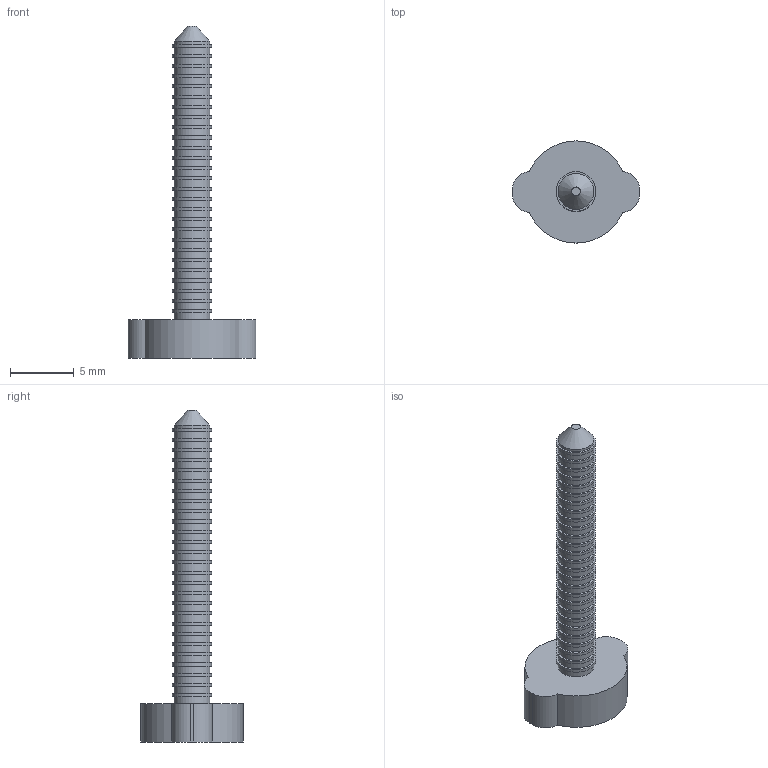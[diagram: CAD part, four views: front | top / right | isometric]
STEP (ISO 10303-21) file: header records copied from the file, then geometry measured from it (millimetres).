
FILE_DESCRIPTION(('Open CASCADE Model'),'2;1');
FILE_NAME('Open CASCADE Shape Model','2026-09-16T17:21:00',('Author'),( 'Open CASCADE'),'Open CASCADE STEP processor 7.9','Open CASCADE 7.9' ,'Unknown');
FILE_SCHEMA(('AUTOMOTIVE_DESIGN { 1 0 10303 214 1 1 1 1 }'));
Length unit declared in the file: millimetre
Products named in the file (1): Open CASCADE STEP translator 7.9 3
Bounding box: 10 x 8 x 26 mm (x, y, z)
Volume: 313.2 mm3; surface area: 470.5 mm2
Topology: 1 solids, 1 shells, 121 faces, 191 edges, 127 vertices
Faces by surface type: cylinder 61, plane 59, cone 1
Full cylindrical faces by diameter (mm): 2.8 x28, 3.1 x27
Entity records: 5458 total; most frequent: CARTESIAN_POINT 1179, DIRECTION 873, ORIENTED_EDGE 382, PCURVE 382, DEFINITIONAL_REPRESENTATION 382, LINE 319, VECTOR 319, AXIS2_PLACEMENT_3D 245
